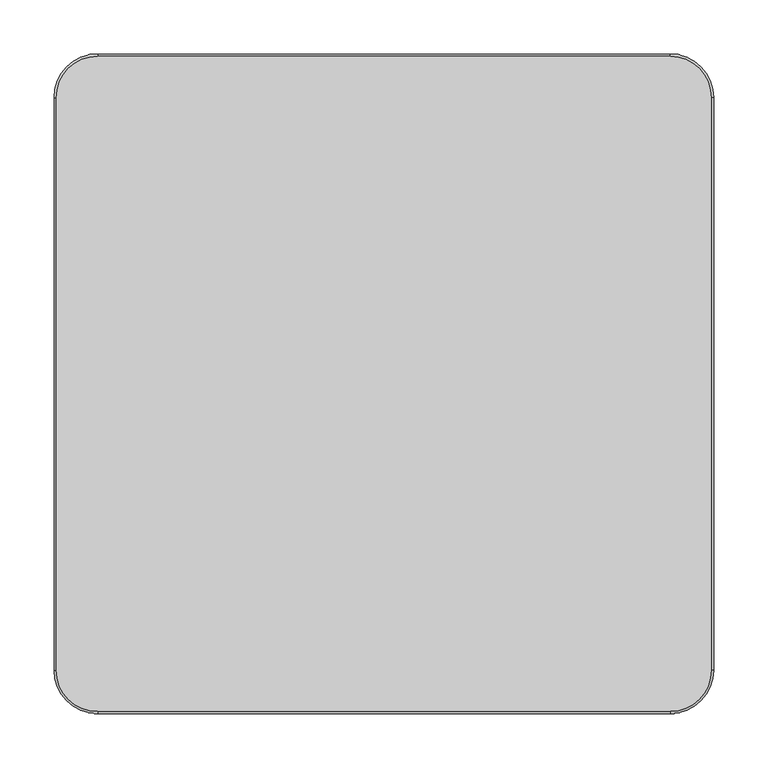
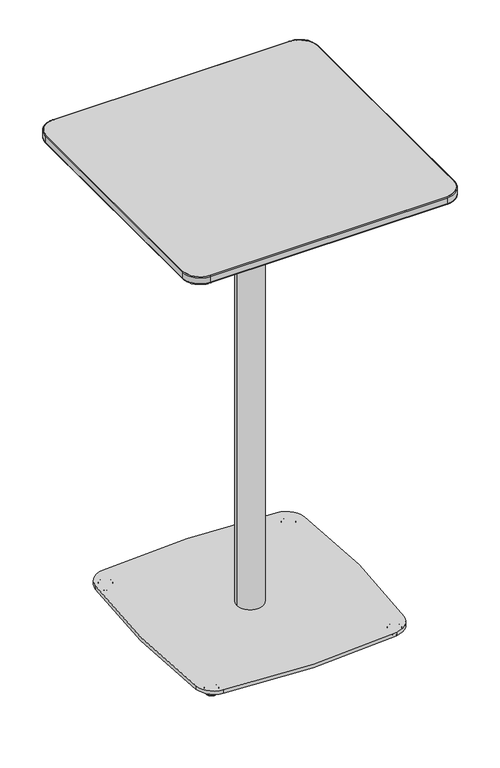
"""IFC4 building model written with IfcOpenShell, lengths in millimetres: furniture geometry, Coalesse_AM_Table_Occasional_Montara650Table_CafeHeight_Square : Bar Height - 24D x 24W."""

from ifc_helpers import new_model, si_unit, point, frame, frame_2d, origin, place, context, project, spatial, polyline, circle_curve, ellipse_curve, trimmed, segment, composite_curve, outline, extrude, source, transform, mapped, element, save
from ifc_brep_helpers import plane_surface, cylinder_surface, revolved_surface, spline_surface, advanced_brep


def furniture_204b8a26(model_context):
    return source(origin(), model_context, "Body", "SolidModel", [
        advanced_brep(
        [(-199.4595416, -196.2537842, 0.0), (-209.8436061, -214.2395115, 0.0), (-204.6515739, -205.2466479, 0.0), (-199.0731063, -195.5844585, 0.5718943), (-210.2300415, -214.9088372, 0.5718943), (-197.4473977, -192.7686487, 11.2068005), (-211.8557501, -217.7246471, 11.2068005), (-197.7408617, -193.2769433, 11.9999882), (-211.5622861, -217.2163525, 11.9999882), (-204.6515739, -205.2466479, 11.9999882)],
        [
            (0, 1, circle_curve(frame((-204.6515739, -205.2466479, 0.0), z_axis=(0.0, 0.0, -1.0), x_axis=(-0.5000000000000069, -0.8660254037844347, 0.0)), 10.3840645)),
            (1, 2),
            (2, 0),
            (1, 0, circle_curve(frame((-204.6515739, -205.2466479, 0.0), z_axis=(0.0, 0.0, -1.0), x_axis=(-0.5000000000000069, -0.8660254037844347, 0.0)), 10.3840645)),
            (3, 4, circle_curve(frame((-204.6515739, -205.2466479, 0.5718943), z_axis=(0.0, 0.0, -1.0), x_axis=(-0.5000000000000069, -0.8660254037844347, 0.0)), 11.1569353)),
            (4, 1, circle_curve(frame((-209.8436061, -214.2395115, 0.8081846), z_axis=(0.8660254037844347, -0.5000000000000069, 0.0), x_axis=(-0.5000000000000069, -0.8660254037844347, 0.0)), 0.8081846)),
            (0, 3, circle_curve(frame((-199.4595416, -196.2537842, 0.8081846), z_axis=(0.866025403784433, -0.5000000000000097, 0.0), x_axis=(0.5000000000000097, 0.866025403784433, 0.0)), 0.8081846)),
            (4, 3, circle_curve(frame((-204.6515739, -205.2466479, 0.5718943), z_axis=(0.0, 0.0, -1.0), x_axis=(-0.5000000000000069, -0.8660254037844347, 0.0)), 11.1569353)),
            (5, 6, circle_curve(frame((-204.6515739, -205.2466479, 11.2068005), z_axis=(0.0, 0.0, -1.0), x_axis=(-0.5000000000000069, -0.8660254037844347, 0.0)), 14.4083524)),
            (6, 4),
            (3, 5),
            (6, 5, circle_curve(frame((-204.6515739, -205.2466479, 11.2068005), z_axis=(0.0, 0.0, -1.0), x_axis=(-0.5000000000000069, -0.8660254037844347, 0.0)), 14.4083524)),
            (7, 8, circle_curve(frame((-204.6515739, -205.2466479, 11.9999882), z_axis=(0.0, 0.0, -1.0), x_axis=(-0.5000000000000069, -0.8660254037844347, 0.0)), 13.8214243)),
            (8, 6, circle_curve(frame((-211.5622861, -217.2163525, 11.3862424), z_axis=(0.8660254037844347, -0.5000000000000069, 0.0), x_axis=(-0.5000000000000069, -0.8660254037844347, 0.0)), 0.6137458)),
            (5, 7, circle_curve(frame((-197.7408617, -193.2769433, 11.3862424), z_axis=(0.866025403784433, -0.5000000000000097, 0.0), x_axis=(0.5000000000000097, 0.866025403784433, 0.0)), 0.6137458)),
            (8, 7, circle_curve(frame((-204.6515739, -205.2466479, 11.9999882), z_axis=(0.0, 0.0, -1.0), x_axis=(-0.5000000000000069, -0.8660254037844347, 0.0)), 13.8214243)),
            (9, 8),
            (7, 9),
        ],
        [
            plane_surface(frame((-204.6515739, -205.2466479, 0.0), z_axis=(0.0, 0.0, -1.0), x_axis=(-0.5000000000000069, -0.8660254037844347, 0.0))),
            revolved_surface(trimmed(ellipse_curve(frame((-209.8436061, -214.2395115, 0.8081846), z_axis=(-0.8660254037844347, 0.5000000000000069, 0.0), x_axis=(-0.5000000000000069, -0.8660254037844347, 0.0)), 0.8081846, 0.8081846), [point((-209.8436061, -214.2395115, 0.0))], [point((-210.2300415, -214.9088372, 0.5718943))], True, "CARTESIAN"), (-204.6515739, -205.2466479, 12.2086845), (0.0, 0.0, 1.0)),
            revolved_surface(polyline([(-210.2300415, -214.9088372, 0.5718943), (-211.8557501, -217.7246471, 11.2068005)]), (-204.6515739, -205.2466479, 12.2086845), (0.0, 0.0, 1.0)),
            revolved_surface(trimmed(ellipse_curve(frame((-211.5622861, -217.2163525, 11.3862424), z_axis=(-0.8660254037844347, 0.5000000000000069, 0.0), x_axis=(-0.5000000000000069, -0.8660254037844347, 0.0)), 0.6137458, 0.6137458), [point((-211.8557501, -217.7246471, 11.2068005))], [point((-211.5622861, -217.2163525, 11.9999882))], True, "CARTESIAN"), (-204.6515739, -205.2466479, 12.2086845), (0.0, 0.0, 1.0)),
            plane_surface(frame((-204.6515739, -205.2466479, 11.9999882), z_axis=(0.0, 0.0, 1.0), x_axis=(-0.5000000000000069, -0.8660254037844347, 0.0))),
        ],
        [
            (0, [[1, 2, 3]]),
            (0, [[4, -3, -2]]),
            (1, [[5, 6, -1, 7]]),
            (1, [[8, -7, -4, -6]]),
            (2, [[9, 10, -5, 11]]),
            (2, [[12, -11, -8, -10]]),
            (3, [[13, 14, -9, 15]]),
            (3, [[16, -15, -12, -14]]),
            (4, [[17, -13, 18]]),
            (4, [[-18, -16, -17]]),
        ],
    ),
        advanced_brep(
        [(204.6515739, -205.2466479, 0.0), (209.8436061, -214.2395115, 0.0), (199.4595416, -196.2537842, 0.0), (210.2300415, -214.9088372, 0.5718943), (199.0731063, -195.5844585, 0.5718943), (211.8557501, -217.7246471, 11.2068005), (197.4473977, -192.7686487, 11.2068005), (211.5622861, -217.2163525, 11.9999882), (197.7408617, -193.2769433, 11.9999882), (204.6515739, -205.2466479, 11.9999882)],
        [
            (0, 1),
            (1, 2, circle_curve(frame((204.6515739, -205.2466479, 0.0), z_axis=(0.0, 0.0, -1.0), x_axis=(0.5000000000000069, -0.8660254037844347, 0.0)), 10.3840645)),
            (2, 0),
            (2, 1, circle_curve(frame((204.6515739, -205.2466479, 0.0), z_axis=(0.0, 0.0, -1.0), x_axis=(0.5000000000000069, -0.8660254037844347, 0.0)), 10.3840645)),
            (1, 3, circle_curve(frame((209.8436061, -214.2395115, 0.8081846), z_axis=(-0.8660254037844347, -0.5000000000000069, 0.0), x_axis=(0.5000000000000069, -0.8660254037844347, 0.0)), 0.8081846)),
            (3, 4, circle_curve(frame((204.6515739, -205.2466479, 0.5718943), z_axis=(0.0, 0.0, -1.0), x_axis=(0.5000000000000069, -0.8660254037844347, 0.0)), 11.1569353)),
            (4, 2, circle_curve(frame((199.4595416, -196.2537842, 0.8081846), z_axis=(-0.866025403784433, -0.5000000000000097, 0.0), x_axis=(-0.5000000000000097, 0.866025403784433, 0.0)), 0.8081846)),
            (4, 3, circle_curve(frame((204.6515739, -205.2466479, 0.5718943), z_axis=(0.0, 0.0, -1.0), x_axis=(0.5000000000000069, -0.8660254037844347, 0.0)), 11.1569353)),
            (3, 5),
            (5, 6, circle_curve(frame((204.6515739, -205.2466479, 11.2068005), z_axis=(0.0, 0.0, -1.0), x_axis=(0.5000000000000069, -0.8660254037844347, 0.0)), 14.4083524)),
            (6, 4),
            (6, 5, circle_curve(frame((204.6515739, -205.2466479, 11.2068005), z_axis=(0.0, 0.0, -1.0), x_axis=(0.5000000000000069, -0.8660254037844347, 0.0)), 14.4083524)),
            (5, 7, circle_curve(frame((211.5622861, -217.2163525, 11.3862424), z_axis=(-0.8660254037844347, -0.5000000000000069, 0.0), x_axis=(0.5000000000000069, -0.8660254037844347, 0.0)), 0.6137458)),
            (7, 8, circle_curve(frame((204.6515739, -205.2466479, 11.9999882), z_axis=(0.0, 0.0, -1.0), x_axis=(0.5000000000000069, -0.8660254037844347, 0.0)), 13.8214243)),
            (8, 6, circle_curve(frame((197.7408617, -193.2769433, 11.3862424), z_axis=(-0.866025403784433, -0.5000000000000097, 0.0), x_axis=(-0.5000000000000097, 0.866025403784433, 0.0)), 0.6137458)),
            (8, 7, circle_curve(frame((204.6515739, -205.2466479, 11.9999882), z_axis=(0.0, 0.0, -1.0), x_axis=(0.5000000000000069, -0.8660254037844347, 0.0)), 13.8214243)),
            (7, 9),
            (9, 8),
        ],
        [
            plane_surface(frame((204.6515739, -205.2466479, 0.0), z_axis=(0.0, 0.0, -1.0), x_axis=(0.5000000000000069, -0.8660254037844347, 0.0))),
            revolved_surface(trimmed(ellipse_curve(frame((209.8436061, -214.2395115, 0.8081846), z_axis=(0.8660254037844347, 0.5000000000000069, 0.0), x_axis=(0.5000000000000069, -0.8660254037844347, 0.0)), 0.8081846, 0.8081846), [point((210.2300415, -214.9088372, 0.5718943))], [point((209.8436061, -214.2395115, 0.0))], True, "CARTESIAN"), (204.6515739, -205.2466479, 12.2086845), (0.0, 0.0, -1.0)),
            revolved_surface(polyline([(211.8557501, -217.7246471, 11.2068005), (210.2300415, -214.9088372, 0.5718943)]), (204.6515739, -205.2466479, 12.2086845), (0.0, 0.0, -1.0)),
            revolved_surface(trimmed(ellipse_curve(frame((211.5622861, -217.2163525, 11.3862424), z_axis=(0.8660254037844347, 0.5000000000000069, 0.0), x_axis=(0.5000000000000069, -0.8660254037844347, 0.0)), 0.6137458, 0.6137458), [point((211.5622861, -217.2163525, 11.9999882))], [point((211.8557501, -217.7246471, 11.2068005))], True, "CARTESIAN"), (204.6515739, -205.2466479, 12.2086845), (0.0, 0.0, -1.0)),
            plane_surface(frame((204.6515739, -205.2466479, 11.9999882), z_axis=(0.0, 0.0, 1.0), x_axis=(0.5000000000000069, -0.8660254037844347, 0.0))),
        ],
        [
            (0, [[1, 2, 3]]),
            (0, [[-3, 4, -1]]),
            (1, [[-2, 5, 6, 7]]),
            (1, [[-4, -7, 8, -5]]),
            (2, [[-6, 9, 10, 11]]),
            (2, [[-8, -11, 12, -9]]),
            (3, [[-10, 13, 14, 15]]),
            (3, [[-12, -15, 16, -13]]),
            (4, [[-14, 17, 18]]),
            (4, [[-16, -18, -17]]),
        ],
    ),
        advanced_brep(
        [(199.4595416, 196.2537842, 0.0), (209.8436061, 214.2395115, 0.0), (204.6515739, 205.2466479, 0.0), (199.0731063, 195.5844585, 0.5718943), (210.2300415, 214.9088372, 0.5718943), (197.4473977, 192.7686487, 11.2068005), (211.8557501, 217.7246471, 11.2068005), (197.7408617, 193.2769433, 11.9999882), (211.5622861, 217.2163525, 11.9999882), (204.6515739, 205.2466479, 11.9999882)],
        [
            (0, 1, circle_curve(frame((204.6515739, 205.2466479, 0.0), z_axis=(0.0, 0.0, -1.0), x_axis=(0.5000000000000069, 0.8660254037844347, 0.0)), 10.3840645)),
            (1, 2),
            (2, 0),
            (1, 0, circle_curve(frame((204.6515739, 205.2466479, 0.0), z_axis=(0.0, 0.0, -1.0), x_axis=(0.5000000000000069, 0.8660254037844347, 0.0)), 10.3840645)),
            (3, 4, circle_curve(frame((204.6515739, 205.2466479, 0.5718943), z_axis=(0.0, 0.0, -1.0), x_axis=(0.5000000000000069, 0.8660254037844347, 0.0)), 11.1569353)),
            (4, 1, circle_curve(frame((209.8436061, 214.2395115, 0.8081846), z_axis=(-0.8660254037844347, 0.5000000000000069, 0.0), x_axis=(0.5000000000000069, 0.8660254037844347, 0.0)), 0.8081846)),
            (0, 3, circle_curve(frame((199.4595416, 196.2537842, 0.8081846), z_axis=(-0.866025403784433, 0.5000000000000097, 0.0), x_axis=(-0.5000000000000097, -0.866025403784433, 0.0)), 0.8081846)),
            (4, 3, circle_curve(frame((204.6515739, 205.2466479, 0.5718943), z_axis=(0.0, 0.0, -1.0), x_axis=(0.5000000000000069, 0.8660254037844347, 0.0)), 11.1569353)),
            (5, 6, circle_curve(frame((204.6515739, 205.2466479, 11.2068005), z_axis=(0.0, 0.0, -1.0), x_axis=(0.5000000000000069, 0.8660254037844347, 0.0)), 14.4083524)),
            (6, 4),
            (3, 5),
            (6, 5, circle_curve(frame((204.6515739, 205.2466479, 11.2068005), z_axis=(0.0, 0.0, -1.0), x_axis=(0.5000000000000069, 0.8660254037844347, 0.0)), 14.4083524)),
            (7, 8, circle_curve(frame((204.6515739, 205.2466479, 11.9999882), z_axis=(0.0, 0.0, -1.0), x_axis=(0.5000000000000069, 0.8660254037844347, 0.0)), 13.8214243)),
            (8, 6, circle_curve(frame((211.5622861, 217.2163525, 11.3862424), z_axis=(-0.8660254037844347, 0.5000000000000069, 0.0), x_axis=(0.5000000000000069, 0.8660254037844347, 0.0)), 0.6137458)),
            (5, 7, circle_curve(frame((197.7408617, 193.2769433, 11.3862424), z_axis=(-0.866025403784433, 0.5000000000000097, 0.0), x_axis=(-0.5000000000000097, -0.866025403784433, 0.0)), 0.6137458)),
            (8, 7, circle_curve(frame((204.6515739, 205.2466479, 11.9999882), z_axis=(0.0, 0.0, -1.0), x_axis=(0.5000000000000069, 0.8660254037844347, 0.0)), 13.8214243)),
            (9, 8),
            (7, 9),
        ],
        [
            plane_surface(frame((204.6515739, 205.2466479, 0.0), z_axis=(0.0, 0.0, -1.0), x_axis=(0.5000000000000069, 0.8660254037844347, 0.0))),
            revolved_surface(trimmed(ellipse_curve(frame((209.8436061, 214.2395115, 0.8081846), z_axis=(0.8660254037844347, -0.5000000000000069, 0.0), x_axis=(0.5000000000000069, 0.8660254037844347, 0.0)), 0.8081846, 0.8081846), [point((209.8436061, 214.2395115, 0.0))], [point((210.2300415, 214.9088372, 0.5718943))], True, "CARTESIAN"), (204.6515739, 205.2466479, 12.2086845), (0.0, 0.0, 1.0)),
            revolved_surface(polyline([(210.2300415, 214.9088372, 0.5718943), (211.8557501, 217.7246471, 11.2068005)]), (204.6515739, 205.2466479, 12.2086845), (0.0, 0.0, 1.0)),
            revolved_surface(trimmed(ellipse_curve(frame((211.5622861, 217.2163525, 11.3862424), z_axis=(0.8660254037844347, -0.5000000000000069, 0.0), x_axis=(0.5000000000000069, 0.8660254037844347, 0.0)), 0.6137458, 0.6137458), [point((211.8557501, 217.7246471, 11.2068005))], [point((211.5622861, 217.2163525, 11.9999882))], True, "CARTESIAN"), (204.6515739, 205.2466479, 12.2086845), (0.0, 0.0, 1.0)),
            plane_surface(frame((204.6515739, 205.2466479, 11.9999882), z_axis=(0.0, 0.0, 1.0), x_axis=(0.5000000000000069, 0.8660254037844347, 0.0))),
        ],
        [
            (0, [[1, 2, 3]]),
            (0, [[4, -3, -2]]),
            (1, [[5, 6, -1, 7]]),
            (1, [[8, -7, -4, -6]]),
            (2, [[9, 10, -5, 11]]),
            (2, [[12, -11, -8, -10]]),
            (3, [[13, 14, -9, 15]]),
            (3, [[16, -15, -12, -14]]),
            (4, [[17, -13, 18]]),
            (4, [[-18, -16, -17]]),
        ],
    ),
        extrude(outline(composite_curve([segment(trimmed(circle_curve(frame_2d((189.3188482, 188.9781952)), 44.45), [point((194.4241587, 233.1340363))], [point((233.4709717, 194.115557))], False, "CARTESIAN"), True, "CONTINUOUS"), segment(trimmed(circle_curve(frame_2d((-1397.5488879, 4.3367087)), 1642.0236885), [point((233.4709717, 194.115557))], [point((232.4883748, -193.704489))], False, "CARTESIAN"), True, "CONTINUOUS"), segment(trimmed(circle_curve(frame_2d((188.3628504, -188.3434633)), 44.45), [point((232.4883748, -193.704489))], [point((193.9003311, -232.4471911))], False, "CARTESIAN"), True, "CONTINUOUS"), segment(trimmed(circle_curve(frame_2d((-4.3367152, 1346.4283112)), 1591.2717488), [point((193.9003311, -232.4471911))], [point((-194.577927, -233.4305622))], False, "CARTESIAN"), True, "CONTINUOUS"), segment(trimmed(circle_curve(frame_2d((-189.263799, -189.2993652)), 44.45), [point((-194.577927, -233.4305622))], [point((-233.438325, -194.2403925))], False, "CARTESIAN"), True, "CONTINUOUS"), segment(trimmed(circle_curve(frame_2d((1503.1397991, 5.89e-05)), 1747.4074894), [point((-233.438325, -194.2403925))], [point((-233.4410299, 194.2163254))], False, "CARTESIAN"), True, "CONTINUOUS"), segment(trimmed(circle_curve(frame_2d((-189.2664351, 189.2759133)), 44.45), [point((-233.4410299, 194.2163254))], [point((-194.3022914, 233.4397294))], False, "CARTESIAN"), True, "CONTINUOUS"), segment(trimmed(circle_curve(frame_2d((-1.2702107, -1459.4269529)), 1703.8365498), [point((-194.3022914, 233.4397294))], [point((194.4241587, 233.1340363))], False, "CARTESIAN"), True, "CONTINUOUS")], self_intersect=False)), frame((0.0, 0.0, 11.999986), z_axis=(0.0, 0.0, 1.0), x_axis=(1.0, 0.0, 0.0)), (0.0, 0.0, 1.0), 8.0000105),
        advanced_brep(
        [(-204.6515739, 205.2466479, 0.0), (-209.8436061, 214.2395115, 0.0), (-199.4595416, 196.2537842, 0.0), (-210.2300415, 214.9088372, 0.5718943), (-199.0731063, 195.5844585, 0.5718943), (-211.8557501, 217.7246471, 11.2068005), (-197.4473977, 192.7686487, 11.2068005), (-211.5622861, 217.2163525, 11.9999882), (-197.7408617, 193.2769433, 11.9999882), (-204.6515739, 205.2466479, 11.9999882)],
        [
            (0, 1),
            (1, 2, circle_curve(frame((-204.6515739, 205.2466479, 0.0), z_axis=(0.0, 0.0, -1.0), x_axis=(-0.5000000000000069, 0.8660254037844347, 0.0)), 10.3840645)),
            (2, 0),
            (2, 1, circle_curve(frame((-204.6515739, 205.2466479, 0.0), z_axis=(0.0, 0.0, -1.0), x_axis=(-0.5000000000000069, 0.8660254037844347, 0.0)), 10.3840645)),
            (1, 3, circle_curve(frame((-209.8436061, 214.2395115, 0.8081846), z_axis=(0.8660254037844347, 0.5000000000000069, 0.0), x_axis=(-0.5000000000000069, 0.8660254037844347, 0.0)), 0.8081846)),
            (3, 4, circle_curve(frame((-204.6515739, 205.2466479, 0.5718943), z_axis=(0.0, 0.0, -1.0), x_axis=(-0.5000000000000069, 0.8660254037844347, 0.0)), 11.1569353)),
            (4, 2, circle_curve(frame((-199.4595416, 196.2537842, 0.8081846), z_axis=(0.866025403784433, 0.5000000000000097, 0.0), x_axis=(0.5000000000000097, -0.866025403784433, 0.0)), 0.8081846)),
            (4, 3, circle_curve(frame((-204.6515739, 205.2466479, 0.5718943), z_axis=(0.0, 0.0, -1.0), x_axis=(-0.5000000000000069, 0.8660254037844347, 0.0)), 11.1569353)),
            (3, 5),
            (5, 6, circle_curve(frame((-204.6515739, 205.2466479, 11.2068005), z_axis=(0.0, 0.0, -1.0), x_axis=(-0.5000000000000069, 0.8660254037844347, 0.0)), 14.4083524)),
            (6, 4),
            (6, 5, circle_curve(frame((-204.6515739, 205.2466479, 11.2068005), z_axis=(0.0, 0.0, -1.0), x_axis=(-0.5000000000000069, 0.8660254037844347, 0.0)), 14.4083524)),
            (5, 7, circle_curve(frame((-211.5622861, 217.2163525, 11.3862424), z_axis=(0.8660254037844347, 0.5000000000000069, 0.0), x_axis=(-0.5000000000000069, 0.8660254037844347, 0.0)), 0.6137458)),
            (7, 8, circle_curve(frame((-204.6515739, 205.2466479, 11.9999882), z_axis=(0.0, 0.0, -1.0), x_axis=(-0.5000000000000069, 0.8660254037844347, 0.0)), 13.8214243)),
            (8, 6, circle_curve(frame((-197.7408617, 193.2769433, 11.3862424), z_axis=(0.866025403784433, 0.5000000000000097, 0.0), x_axis=(0.5000000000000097, -0.866025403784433, 0.0)), 0.6137458)),
            (8, 7, circle_curve(frame((-204.6515739, 205.2466479, 11.9999882), z_axis=(0.0, 0.0, -1.0), x_axis=(-0.5000000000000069, 0.8660254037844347, 0.0)), 13.8214243)),
            (7, 9),
            (9, 8),
        ],
        [
            plane_surface(frame((-204.6515739, 205.2466479, 0.0), z_axis=(0.0, 0.0, -1.0), x_axis=(-0.5000000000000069, 0.8660254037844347, 0.0))),
            revolved_surface(trimmed(ellipse_curve(frame((-209.8436061, 214.2395115, 0.8081846), z_axis=(-0.8660254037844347, -0.5000000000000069, 0.0), x_axis=(-0.5000000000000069, 0.8660254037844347, 0.0)), 0.8081846, 0.8081846), [point((-210.2300415, 214.9088372, 0.5718943))], [point((-209.8436061, 214.2395115, 0.0))], True, "CARTESIAN"), (-204.6515739, 205.2466479, 12.2086845), (0.0, 0.0, -1.0)),
            revolved_surface(polyline([(-211.8557501, 217.7246471, 11.2068005), (-210.2300415, 214.9088372, 0.5718943)]), (-204.6515739, 205.2466479, 12.2086845), (0.0, 0.0, -1.0)),
            revolved_surface(trimmed(ellipse_curve(frame((-211.5622861, 217.2163525, 11.3862424), z_axis=(-0.8660254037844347, -0.5000000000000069, 0.0), x_axis=(-0.5000000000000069, 0.8660254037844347, 0.0)), 0.6137458, 0.6137458), [point((-211.5622861, 217.2163525, 11.9999882))], [point((-211.8557501, 217.7246471, 11.2068005))], True, "CARTESIAN"), (-204.6515739, 205.2466479, 12.2086845), (0.0, 0.0, -1.0)),
            plane_surface(frame((-204.6515739, 205.2466479, 11.9999882), z_axis=(0.0, 0.0, 1.0), x_axis=(-0.5000000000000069, 0.8660254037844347, 0.0))),
        ],
        [
            (0, [[1, 2, 3]]),
            (0, [[-3, 4, -1]]),
            (1, [[-2, 5, 6, 7]]),
            (1, [[-4, -7, 8, -5]]),
            (2, [[-6, 9, 10, 11]]),
            (2, [[-8, -11, 12, -9]]),
            (3, [[-10, 13, 14, 15]]),
            (3, [[-12, -15, 16, -13]]),
            (4, [[-14, 17, 18]]),
            (4, [[-16, -18, -17]]),
        ],
    ),
        advanced_brep(
        [(239.8626362, 239.8635082, 1036.830027), (239.8626362, -239.8635082, 1036.830027), (-239.8626362, -239.8635082, 1036.830027), (-239.8626362, 239.8635082, 1036.830027), (264.588625, 302.768, 1049.095891), (-264.588625, 302.768, 1049.095891), (-302.688625, 264.668, 1049.095891), (-302.688625, -264.668, 1049.095891), (-264.588625, -302.768, 1049.095891), (264.588625, -302.768, 1049.095891), (302.688625, -264.668, 1049.095891), (302.688625, 264.668, 1049.095891)],
        [
            (0, 1),
            (1, 2),
            (2, 3),
            (3, 0),
            (4, 5),
            (5, 6, circle_curve(frame((-264.588625, 264.668, 1049.095891), z_axis=(0.0, 0.0, 1.0), x_axis=(1.0, 0.0, 0.0)), 38.1)),
            (6, 7),
            (7, 8, circle_curve(frame((-264.588625, -264.668, 1049.095891), z_axis=(0.0, 0.0, 1.0), x_axis=(1.0, 0.0, 0.0)), 38.1)),
            (8, 9),
            (9, 10, circle_curve(frame((264.588625, -264.668, 1049.095891), z_axis=(0.0, 0.0, 1.0), x_axis=(1.0, 0.0, 0.0)), 38.1)),
            (10, 11),
            (11, 4, circle_curve(frame((264.588625, 264.668, 1049.095891), z_axis=(0.0, 0.0, 1.0), x_axis=(1.0, 0.0, 0.0)), 38.1)),
            (11, 0),
            (0, 4),
            (10, 1),
            (9, 1),
            (8, 2),
            (7, 2),
            (6, 3),
            (5, 3),
        ],
        [
            plane_surface(frame((0.0, 0.0, 1036.830027), z_axis=(0.0, 0.0, -1.0), x_axis=(-1.0, 0.0, 0.0))),
            plane_surface(frame((0.0, 0.0, 1049.095891), z_axis=(0.0, 0.0, 1.0), x_axis=(-1.0, 0.0, 0.0))),
            spline_surface(2, 1, [[(264.588625, 302.768, 1049.095891), (239.8626362, 239.8635082, 1036.830027)], [(302.68862499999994, 302.7679999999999, 1049.095891), (239.8626362, 239.8635082, 1036.830027)], [(302.688625, 264.668, 1049.095891), (239.8626362, 239.8635082, 1036.830027)]], [3, 3], [2, 2], [0.0, 1.0], [0.0, 1.0], weights=[[1.0, 1.0], [0.7071067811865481, 0.7071067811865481], [1.0, 1.0]]),
            plane_surface(frame((302.688625, 0.0, 1049.095891), z_axis=(0.19161772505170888, 0.0, -0.9814696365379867), x_axis=(0.0, -1.0, 0.0))),
            spline_surface(2, 1, [[(302.688625, -264.668, 1049.095891), (239.8626362, -239.8635082, 1036.830027)], [(302.68862500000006, -302.76800000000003, 1049.095891), (239.8626362, -239.8635082, 1036.830027)], [(264.588625, -302.768, 1049.095891), (239.8626362, -239.8635082, 1036.830027)]], [3, 3], [2, 2], [0.0, 1.0], [0.0, 1.0], weights=[[1.0, 1.0], [0.707106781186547, 0.707106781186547], [1.0, 1.0]]),
            plane_surface(frame((0.0, -302.768, 1049.095891), z_axis=(0.0, -0.19138735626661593, -0.9815145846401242), x_axis=(-1.0, 0.0, 0.0))),
            spline_surface(2, 1, [[(-264.588625, -302.768, 1049.095891), (-239.8626362, -239.8635082, 1036.830027)], [(-302.68862499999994, -302.7679999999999, 1049.095891), (-239.8626362, -239.8635082, 1036.830027)], [(-302.688625, -264.668, 1049.095891), (-239.8626362, -239.8635082, 1036.830027)]], [3, 3], [2, 2], [0.0, 1.0], [0.0, 1.0], weights=[[1.0, 1.0], [0.7071067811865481, 0.7071067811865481], [1.0, 1.0]]),
            plane_surface(frame((-302.688625, 0.0, 1049.095891), z_axis=(-0.19161772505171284, 0.0, -0.9814696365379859), x_axis=(0.0, 1.0, 0.0))),
            spline_surface(2, 1, [[(-302.688625, 264.668, 1049.095891), (-239.8626362, 239.8635082, 1036.830027)], [(-302.68862500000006, 302.76800000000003, 1049.095891), (-239.8626362, 239.8635082, 1036.830027)], [(-264.588625, 302.768, 1049.095891), (-239.8626362, 239.8635082, 1036.830027)]], [3, 3], [2, 2], [0.0, 1.0], [0.0, 1.0], weights=[[1.0, 1.0], [0.707106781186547, 0.707106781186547], [1.0, 1.0]]),
            plane_surface(frame((0.0, 302.768, 1049.095891), z_axis=(0.0, 0.19138735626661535, -0.9815145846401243), x_axis=(1.0, 0.0, 0.0))),
        ],
        [
            (0, [[1, 2, 3, 4]]),
            (1, [[5, 6, 7, 8, 9, 10, 11, 12]]),
            (2, [[-12, 13, 14]]),
            (3, [[-11, 15, -1, -13]]),
            (4, [[-10, 16, -15]]),
            (5, [[-9, 17, -2, -16]]),
            (6, [[-8, 18, -17]]),
            (7, [[-7, 19, -3, -18]]),
            (8, [[-6, 20, -19]]),
            (9, [[-5, -14, -4, -20]]),
        ],
    ),
        extrude(outline(composite_curve([segment(trimmed(circle_curve(frame_2d((264.588625, 264.668)), 38.1), [point((264.588625, 302.768))], [point((302.688625, 264.668))], False, "CARTESIAN"), True, "CONTINUOUS"), segment(polyline([(302.688625, 264.668), (302.688625, -264.668)]), True, "CONTINUOUS"), segment(trimmed(circle_curve(frame_2d((264.588625, -264.668)), 38.1), [point((302.688625, -264.668))], [point((264.588625, -302.768))], False, "CARTESIAN"), True, "CONTINUOUS"), segment(polyline([(264.588625, -302.768), (-264.588625, -302.768)]), True, "CONTINUOUS"), segment(trimmed(circle_curve(frame_2d((-264.588625, -264.668)), 38.1), [point((-264.588625, -302.768))], [point((-302.688625, -264.668))], False, "CARTESIAN"), True, "CONTINUOUS"), segment(polyline([(-302.688625, -264.668), (-302.688625, 264.668)]), True, "CONTINUOUS"), segment(trimmed(circle_curve(frame_2d((-264.588625, 264.668)), 38.1), [point((-302.688625, 264.668))], [point((-264.588625, 302.768))], False, "CARTESIAN"), True, "CONTINUOUS"), segment(polyline([(-264.588625, 302.768), (264.588625, 302.768)]), True, "CONTINUOUS")], self_intersect=False)), frame((0.0, 0.0, 1049.095891), z_axis=(0.0, 0.0, 1.0), x_axis=(1.0, 0.0, 0.0)), (0.0, 0.0, 1.0), 17.704109),
        advanced_brep(
        [(-304.7644915, 264.668, 1051.0278467), (-264.588625, 304.8438665, 1051.0278467), (-264.588625, 302.768, 1049.095891), (-302.688625, 264.668, 1049.095891), (-304.7644915, 264.668, 1064.7999283), (-264.588625, 304.8438665, 1064.7999283), (-302.688625, 264.668, 1066.8), (-264.588625, 302.768, 1066.8), (-302.688625, -264.668, 1049.095891), (-304.7644915, -264.668, 1051.0278467), (-304.7644915, -264.668, 1064.7999283), (-302.688625, -264.668, 1066.8), (-264.588625, -304.8438665, 1051.0278467), (-264.588625, -302.768, 1049.095891), (-264.588625, -304.8438665, 1064.7999283), (-264.588625, -302.768, 1066.8), (264.588625, -302.768, 1049.095891), (264.588625, -304.8438665, 1051.0278467), (264.588625, -304.8438665, 1064.7999283), (264.588625, -302.768, 1066.8), (304.7644915, -264.668, 1051.0278467), (302.688625, -264.668, 1049.095891), (304.7644915, -264.668, 1064.7999283), (302.688625, -264.668, 1066.8), (302.688625, 264.668, 1049.095891), (304.7644915, 264.668, 1051.0278467), (304.7644915, 264.668, 1064.7999283), (302.688625, 264.668, 1066.8), (264.588625, 304.8438665, 1051.0278467), (264.588625, 302.768, 1049.095891), (264.588625, 304.8438665, 1064.7999283), (264.588625, 302.768, 1066.8)],
        [
            (0, 1, circle_curve(frame((-264.588625, 264.668, 1051.0278467), z_axis=(0.0, 0.0, -1.0), x_axis=(0.0, 1.0, 0.0)), 40.1758665)),
            (1, 2, circle_curve(frame((-264.588625, 302.9069224, 1051.0278467), z_axis=(-1.0, 0.0, 0.0), x_axis=(0.0, -1.0, 0.0)), 1.9369441)),
            (2, 3, circle_curve(frame((-264.588625, 264.668, 1049.095891), z_axis=(0.0, 0.0, 1.0), x_axis=(0.0, 1.0, 0.0)), 38.1)),
            (3, 0, circle_curve(frame((-302.8275474, 264.668, 1051.0278467), z_axis=(0.0, 1.0, 0.0), x_axis=(1.0, 0.0, 0.0)), 1.9369441)),
            (4, 5, circle_curve(frame((-264.588625, 264.668, 1064.7999283), z_axis=(0.0, 0.0, -1.0), x_axis=(0.0, 1.0, 0.0)), 40.1758665)),
            (5, 1),
            (0, 4),
            (6, 7, circle_curve(frame((-264.588625, 264.668, 1066.8), z_axis=(0.0, 0.0, -1.0), x_axis=(0.0, 1.0, 0.0)), 38.1)),
            (7, 5, circle_curve(frame((-264.588625, 302.8424111, 1064.7999283), z_axis=(-1.0, 0.0, 0.0), x_axis=(0.0, -1.0, 0.0)), 2.0014554)),
            (4, 6, circle_curve(frame((-302.7630361, 264.668, 1064.7999283), z_axis=(0.0, 1.0, 0.0), x_axis=(1.0, 0.0, 0.0)), 2.0014554)),
            (2, 7),
            (6, 3),
            (3, 8),
            (8, 9, circle_curve(frame((-302.8275474, -264.668, 1051.0278467), z_axis=(0.0, 1.0, 0.0), x_axis=(1.0, 0.0, 0.0)), 1.9369441)),
            (9, 0),
            (9, 10),
            (10, 4),
            (10, 11, circle_curve(frame((-302.7630361, -264.668, 1064.7999283), z_axis=(0.0, 1.0, 0.0), x_axis=(1.0, 0.0, 0.0)), 2.0014554)),
            (11, 6),
            (11, 8),
            (12, 9, circle_curve(frame((-264.588625, -264.668, 1051.0278467), z_axis=(0.0, 0.0, -1.0), x_axis=(-1.0, 0.0, 0.0)), 40.1758665)),
            (8, 13, circle_curve(frame((-264.588625, -264.668, 1049.095891), z_axis=(0.0, 0.0, 1.0), x_axis=(-1.0, 0.0, 0.0)), 38.1)),
            (13, 12, circle_curve(frame((-264.588625, -302.9069224, 1051.0278467), z_axis=(-1.0, 0.0, 0.0), x_axis=(0.0, 1.0, 0.0)), 1.9369441)),
            (14, 10, circle_curve(frame((-264.588625, -264.668, 1064.7999283), z_axis=(0.0, 0.0, -1.0), x_axis=(-1.0, 0.0, 0.0)), 40.1758665)),
            (12, 14),
            (15, 11, circle_curve(frame((-264.588625, -264.668, 1066.8), z_axis=(0.0, 0.0, -1.0), x_axis=(-1.0, 0.0, 0.0)), 38.1)),
            (14, 15, circle_curve(frame((-264.588625, -302.8424111, 1064.7999283), z_axis=(-1.0, 0.0, 0.0), x_axis=(0.0, 1.0, 0.0)), 2.0014554)),
            (15, 13),
            (13, 16),
            (16, 17, circle_curve(frame((264.588625, -302.9069224, 1051.0278467), z_axis=(-1.0, 0.0, 0.0), x_axis=(0.0, 1.0, 0.0)), 1.9369441)),
            (17, 12),
            (17, 18),
            (18, 14),
            (18, 19, circle_curve(frame((264.588625, -302.8424111, 1064.7999283), z_axis=(-1.0, 0.0, 0.0), x_axis=(0.0, 1.0, 0.0)), 2.0014554)),
            (19, 15),
            (19, 16),
            (20, 17, circle_curve(frame((264.588625, -264.668, 1051.0278467), z_axis=(0.0, 0.0, -1.0), x_axis=(0.0, -1.0, 0.0)), 40.1758665)),
            (16, 21, circle_curve(frame((264.588625, -264.668, 1049.095891), z_axis=(0.0, 0.0, 1.0), x_axis=(0.0, -1.0, 0.0)), 38.1)),
            (21, 20, circle_curve(frame((302.8275474, -264.668, 1051.0278467), z_axis=(0.0, -1.0, 0.0), x_axis=(-1.0, 0.0, 0.0)), 1.9369441)),
            (22, 18, circle_curve(frame((264.588625, -264.668, 1064.7999283), z_axis=(0.0, 0.0, -1.0), x_axis=(0.0, -1.0, 0.0)), 40.1758665)),
            (20, 22),
            (23, 19, circle_curve(frame((264.588625, -264.668, 1066.8), z_axis=(0.0, 0.0, -1.0), x_axis=(0.0, -1.0, 0.0)), 38.1)),
            (22, 23, circle_curve(frame((302.7630361, -264.668, 1064.7999283), z_axis=(0.0, -1.0, 0.0), x_axis=(-1.0, 0.0, 0.0)), 2.0014554)),
            (23, 21),
            (21, 24),
            (24, 25, circle_curve(frame((302.8275474, 264.668, 1051.0278467), z_axis=(0.0, -1.0, 0.0), x_axis=(-1.0, 0.0, 0.0)), 1.9369441)),
            (25, 20),
            (25, 26),
            (26, 22),
            (26, 27, circle_curve(frame((302.7630361, 264.668, 1064.7999283), z_axis=(0.0, -1.0, 0.0), x_axis=(-1.0, 0.0, 0.0)), 2.0014554)),
            (27, 23),
            (27, 24),
            (28, 25, circle_curve(frame((264.588625, 264.668, 1051.0278467), z_axis=(0.0, 0.0, -1.0), x_axis=(1.0, 0.0, 0.0)), 40.1758665)),
            (24, 29, circle_curve(frame((264.588625, 264.668, 1049.095891), z_axis=(0.0, 0.0, 1.0), x_axis=(1.0, 0.0, 0.0)), 38.1)),
            (29, 28, circle_curve(frame((264.588625, 302.9069224, 1051.0278467), z_axis=(1.0, 0.0, 0.0), x_axis=(0.0, -1.0, 0.0)), 1.9369441)),
            (30, 26, circle_curve(frame((264.588625, 264.668, 1064.7999283), z_axis=(0.0, 0.0, -1.0), x_axis=(1.0, 0.0, 0.0)), 40.1758665)),
            (28, 30),
            (31, 27, circle_curve(frame((264.588625, 264.668, 1066.8), z_axis=(0.0, 0.0, -1.0), x_axis=(1.0, 0.0, 0.0)), 38.1)),
            (30, 31, circle_curve(frame((264.588625, 302.8424111, 1064.7999283), z_axis=(1.0, 0.0, 0.0), x_axis=(0.0, -1.0, 0.0)), 2.0014554)),
            (31, 29),
            (29, 2),
            (1, 28),
            (5, 30),
            (7, 31),
        ],
        [
            revolved_surface(trimmed(ellipse_curve(frame((-264.588625, 302.9069224, 1051.0278467), z_axis=(1.0, 0.0, 0.0), x_axis=(0.0, -1.0, 0.0)), 1.9369441, 1.9369441), [point((-264.588625, 302.768, 1049.095891))], [point((-264.588625, 304.8438665, 1051.0278467))], True, "CARTESIAN"), (-264.588625, 264.668, 0.0), (0.0, 0.0, 1.0)),
            cylinder_surface(frame((-264.588625, 264.668, 0.0), z_axis=(0.0, 0.0, 1.0), x_axis=(0.0, 1.0, 0.0)), 40.1758665),
            revolved_surface(trimmed(ellipse_curve(frame((-264.588625, 302.8424111, 1064.7999283), z_axis=(1.0, 0.0, 0.0), x_axis=(0.0, -1.0, 0.0)), 2.0014554, 2.0014554), [point((-264.588625, 304.8438665, 1064.7999283))], [point((-264.588625, 302.768, 1066.8))], True, "CARTESIAN"), (-264.588625, 264.668, 0.0), (0.0, 0.0, 1.0)),
            revolved_surface(polyline([(-264.588625, 302.76800000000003, 1066.8), (-264.588625, 302.76800000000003, 1049.095891)]), (-264.588625, 264.668, 0.0), (0.0, 0.0, 1.0)),
            cylinder_surface(frame((-302.8275474, 264.668, 1051.0278467), z_axis=(0.0, 1.0, 0.0), x_axis=(1.0, 0.0, 0.0)), 1.9369441),
            plane_surface(frame((-304.7644915, 264.668, 1051.0278467), z_axis=(-1.0, 0.0, 0.0), x_axis=(0.0, -1.0, 0.0))),
            cylinder_surface(frame((-302.7630361, 264.668, 1064.7999283), z_axis=(0.0, 1.0, 0.0), x_axis=(1.0, 0.0, 0.0)), 2.0014554),
            plane_surface(frame((-302.688625, 264.668, 1066.8), z_axis=(1.0, 0.0, 0.0), x_axis=(0.0, -1.0, 0.0))),
            revolved_surface(trimmed(ellipse_curve(frame((-302.8275474, -264.668, 1051.0278467), z_axis=(0.0, 1.0, 0.0), x_axis=(1.0, 0.0, 0.0)), 1.9369441, 1.9369441), [point((-302.688625, -264.668, 1049.095891))], [point((-304.7644915, -264.668, 1051.0278467))], True, "CARTESIAN"), (-264.588625, -264.668, 0.0), (0.0, 0.0, 1.0)),
            cylinder_surface(frame((-264.588625, -264.668, 0.0), z_axis=(0.0, 0.0, 1.0), x_axis=(-1.0, 0.0, 0.0)), 40.1758665),
            revolved_surface(trimmed(ellipse_curve(frame((-302.7630361, -264.668, 1064.7999283), z_axis=(0.0, 1.0, 0.0), x_axis=(1.0, 0.0, 0.0)), 2.0014554, 2.0014554), [point((-304.7644915, -264.668, 1064.7999283))], [point((-302.688625, -264.668, 1066.8))], True, "CARTESIAN"), (-264.588625, -264.668, 0.0), (0.0, 0.0, 1.0)),
            revolved_surface(polyline([(-302.688625, -264.668, 1066.8), (-302.688625, -264.668, 1049.095891)]), (-264.588625, -264.668, 0.0), (0.0, 0.0, 1.0)),
            cylinder_surface(frame((-264.588625, -302.9069224, 1051.0278467), z_axis=(-1.0, 0.0, 0.0), x_axis=(0.0, 1.0, 0.0)), 1.9369441),
            plane_surface(frame((-264.588625, -304.8438665, 1051.0278467), z_axis=(0.0, -1.0, 0.0), x_axis=(1.0, 0.0, 0.0))),
            cylinder_surface(frame((-264.588625, -302.8424111, 1064.7999283), z_axis=(-1.0, 0.0, 0.0), x_axis=(0.0, 1.0, 0.0)), 2.0014554),
            plane_surface(frame((-264.588625, -302.768, 1066.8), z_axis=(0.0, 1.0, 0.0), x_axis=(1.0, 0.0, 0.0))),
            revolved_surface(trimmed(ellipse_curve(frame((264.588625, -302.9069224, 1051.0278467), z_axis=(-1.0, 0.0, 0.0), x_axis=(0.0, 1.0, 0.0)), 1.9369441, 1.9369441), [point((264.588625, -302.768, 1049.095891))], [point((264.588625, -304.8438665, 1051.0278467))], True, "CARTESIAN"), (264.588625, -264.668, 0.0), (0.0, 0.0, 1.0)),
            cylinder_surface(frame((264.588625, -264.668, 0.0), z_axis=(0.0, 0.0, 1.0), x_axis=(0.0, -1.0, 0.0)), 40.1758665),
            revolved_surface(trimmed(ellipse_curve(frame((264.588625, -302.8424111, 1064.7999283), z_axis=(-1.0, 0.0, 0.0), x_axis=(0.0, 1.0, 0.0)), 2.0014554, 2.0014554), [point((264.588625, -304.8438665, 1064.7999283))], [point((264.588625, -302.768, 1066.8))], True, "CARTESIAN"), (264.588625, -264.668, 0.0), (0.0, 0.0, 1.0)),
            revolved_surface(polyline([(264.588625, -302.76800000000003, 1066.8), (264.588625, -302.76800000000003, 1049.095891)]), (264.588625, -264.668, 0.0), (0.0, 0.0, 1.0)),
            cylinder_surface(frame((302.8275474, -264.668, 1051.0278467), z_axis=(0.0, -1.0, 0.0), x_axis=(-1.0, 0.0, 0.0)), 1.9369441),
            plane_surface(frame((304.7644915, -264.668, 1051.0278467), z_axis=(1.0, 0.0, 0.0), x_axis=(0.0, 1.0, 0.0))),
            cylinder_surface(frame((302.7630361, -264.668, 1064.7999283), z_axis=(0.0, -1.0, 0.0), x_axis=(-1.0, 0.0, 0.0)), 2.0014554),
            plane_surface(frame((302.688625, -264.668, 1066.8), z_axis=(-1.0, 0.0, 0.0), x_axis=(0.0, 1.0, 0.0))),
            revolved_surface(trimmed(ellipse_curve(frame((302.8275474, 264.668, 1051.0278467), z_axis=(0.0, -1.0, 0.0), x_axis=(-1.0, 0.0, 0.0)), 1.9369441, 1.9369441), [point((302.688625, 264.668, 1049.095891))], [point((304.7644915, 264.668, 1051.0278467))], True, "CARTESIAN"), (264.588625, 264.668, 0.0), (0.0, 0.0, 1.0)),
            cylinder_surface(frame((264.588625, 264.668, 0.0), z_axis=(0.0, 0.0, 1.0), x_axis=(1.0, 0.0, 0.0)), 40.1758665),
            revolved_surface(trimmed(ellipse_curve(frame((302.7630361, 264.668, 1064.7999283), z_axis=(0.0, -1.0, 0.0), x_axis=(-1.0, 0.0, 0.0)), 2.0014554, 2.0014554), [point((304.7644915, 264.668, 1064.7999283))], [point((302.688625, 264.668, 1066.8))], True, "CARTESIAN"), (264.588625, 264.668, 0.0), (0.0, 0.0, 1.0)),
            revolved_surface(polyline([(302.688625, 264.668, 1066.8), (302.688625, 264.668, 1049.095891)]), (264.588625, 264.668, 0.0), (0.0, 0.0, 1.0)),
            cylinder_surface(frame((264.588625, 302.9069224, 1051.0278467), z_axis=(1.0, 0.0, 0.0), x_axis=(0.0, -1.0, 0.0)), 1.9369441),
            plane_surface(frame((264.588625, 304.8438665, 1051.0278467), z_axis=(0.0, 1.0, 0.0), x_axis=(-1.0, 0.0, 0.0))),
            cylinder_surface(frame((264.588625, 302.8424111, 1064.7999283), z_axis=(1.0, 0.0, 0.0), x_axis=(0.0, -1.0, 0.0)), 2.0014554),
            plane_surface(frame((264.588625, 302.768, 1066.8), z_axis=(0.0, -1.0, 0.0), x_axis=(-1.0, 0.0, 0.0))),
        ],
        [
            (0, [[1, 2, 3, 4]]),
            (1, [[5, 6, -1, 7]]),
            (2, [[8, 9, -5, 10]]),
            (3, [[-3, 11, -8, 12]]),
            (4, [[-4, 13, 14, 15]]),
            (5, [[-7, -15, 16, 17]]),
            (6, [[-10, -17, 18, 19]]),
            (7, [[-12, -19, 20, -13]]),
            (8, [[21, -14, 22, 23]]),
            (9, [[24, -16, -21, 25]]),
            (10, [[26, -18, -24, 27]]),
            (11, [[-22, -20, -26, 28]]),
            (12, [[-23, 29, 30, 31]]),
            (13, [[-25, -31, 32, 33]]),
            (14, [[-27, -33, 34, 35]]),
            (15, [[-28, -35, 36, -29]]),
            (16, [[37, -30, 38, 39]]),
            (17, [[40, -32, -37, 41]]),
            (18, [[42, -34, -40, 43]]),
            (19, [[-38, -36, -42, 44]]),
            (20, [[-39, 45, 46, 47]]),
            (21, [[-41, -47, 48, 49]]),
            (22, [[-43, -49, 50, 51]]),
            (23, [[-44, -51, 52, -45]]),
            (24, [[53, -46, 54, 55]]),
            (25, [[56, -48, -53, 57]]),
            (26, [[58, -50, -56, 59]]),
            (27, [[-54, -52, -58, 60]]),
            (28, [[-55, 61, -2, 62]]),
            (29, [[-57, -62, -6, 63]]),
            (30, [[-59, -63, -9, 64]]),
            (31, [[-60, -64, -11, -61]]),
        ],
    ),
        advanced_brep(
        [(131.6004101, 0.0, 1033.655027), (-131.6004101, 0.0, 1033.655027), (-176.1626132, 0.0, 1033.655027), (176.1626132, 0.0, 1033.655027), (121.0488662, 0.0, 1032.5460151), (-121.0488662, 0.0, 1032.5460151), (48.7461809, 0.0, 1017.8837029), (-48.7461809, 0.0, 1017.8837029), (37.412985, 0.0, 1017.8837029), (-37.412985, 0.0, 1017.8837029), (29.5495828, 0.0, 19.9999965), (-29.5495828, 0.0, 19.9999965), (-29.5495828, 0.0, 1029.6852036), (29.5495828, 0.0, 1029.6852036), (0.0, 0.0, 19.9999965), (176.1626132, 0.0, 1036.830027), (-176.1626132, 0.0, 1036.830027), (0.0, 0.0, 1036.830027), (33.3511087, 0.0, 1019.3383874), (-33.3511087, 0.0, 1019.3383874), (31.712334, 0.0, 1029.6852036), (-31.712334, 0.0, 1029.6852036)],
        [
            (0, 1, circle_curve(frame((0.0, 0.0, 1033.655027), z_axis=(0.0, 0.0, 1.0), x_axis=(-1.0, 0.0, 0.0)), 131.6004101)),
            (1, 2),
            (2, 3, circle_curve(frame((0.0, 0.0, 1033.655027), z_axis=(0.0, 0.0, -1.0), x_axis=(-1.0, 0.0, 0.0)), 176.1626132)),
            (3, 0),
            (1, 0, circle_curve(frame((0.0, 0.0, 1033.655027), z_axis=(0.0, 0.0, 1.0), x_axis=(-1.0, 0.0, 0.0)), 131.6004101)),
            (3, 2, circle_curve(frame((0.0, 0.0, 1033.655027), z_axis=(0.0, 0.0, -1.0), x_axis=(-1.0, 0.0, 0.0)), 176.1626132)),
            (4, 5, circle_curve(frame((0.0, 0.0, 1032.5460151), z_axis=(0.0, 0.0, 1.0), x_axis=(-1.0, 0.0, 0.0)), 121.0488662)),
            (5, 1),
            (0, 4),
            (5, 4, circle_curve(frame((0.0, 0.0, 1032.5460151), z_axis=(0.0, 0.0, 1.0), x_axis=(-1.0, 0.0, 0.0)), 121.0488662)),
            (6, 7, circle_curve(frame((0.0, 0.0, 1017.8837029), z_axis=(0.0, 0.0, 1.0), x_axis=(-1.0, 0.0, 0.0)), 48.7461809)),
            (7, 5),
            (4, 6),
            (7, 6, circle_curve(frame((0.0, 0.0, 1017.8837029), z_axis=(0.0, 0.0, 1.0), x_axis=(-1.0, 0.0, 0.0)), 48.7461809)),
            (8, 9, circle_curve(frame((0.0, 0.0, 1017.8837029), z_axis=(0.0, 0.0, 1.0), x_axis=(-1.0, 0.0, 0.0)), 37.412985)),
            (9, 7),
            (6, 8),
            (9, 8, circle_curve(frame((0.0, 0.0, 1017.8837029), z_axis=(0.0, 0.0, 1.0), x_axis=(-1.0, 0.0, 0.0)), 37.412985)),
            (10, 11, circle_curve(frame((0.0, 0.0, 19.9999965), z_axis=(0.0, 0.0, 1.0), x_axis=(-1.0, 0.0, 0.0)), 29.5495828)),
            (11, 12),
            (12, 13, circle_curve(frame((0.0, 0.0, 1029.6852036), z_axis=(0.0, 0.0, -1.0), x_axis=(-1.0, 0.0, 0.0)), 29.5495828)),
            (13, 10),
            (11, 10, circle_curve(frame((0.0, 0.0, 19.9999965), z_axis=(0.0, 0.0, 1.0), x_axis=(-1.0, 0.0, 0.0)), 29.5495828)),
            (13, 12, circle_curve(frame((0.0, 0.0, 1029.6852036), z_axis=(0.0, 0.0, -1.0), x_axis=(-1.0, 0.0, 0.0)), 29.5495828)),
            (14, 11),
            (10, 14),
            (15, 16, circle_curve(frame((0.0, 0.0, 1036.830027), z_axis=(0.0, 0.0, 1.0), x_axis=(-1.0, 0.0, 0.0)), 176.1626132)),
            (16, 17),
            (17, 15),
            (16, 15, circle_curve(frame((0.0, 0.0, 1036.830027), z_axis=(0.0, 0.0, 1.0), x_axis=(-1.0, 0.0, 0.0)), 176.1626132)),
            (2, 16),
            (15, 3),
            (18, 19, circle_curve(frame((0.0, 0.0, 1019.3383874), z_axis=(0.0, 0.0, 1.0), x_axis=(-1.0, 0.0, 0.0)), 33.3511087)),
            (19, 9),
            (8, 18),
            (19, 18, circle_curve(frame((0.0, 0.0, 1019.3383874), z_axis=(0.0, 0.0, 1.0), x_axis=(-1.0, 0.0, 0.0)), 33.3511087)),
            (20, 21, circle_curve(frame((0.0, 0.0, 1029.6852036), z_axis=(0.0, 0.0, 1.0), x_axis=(-1.0, 0.0, 0.0)), 31.712334)),
            (21, 19),
            (18, 20),
            (21, 20, circle_curve(frame((0.0, 0.0, 1029.6852036), z_axis=(0.0, 0.0, 1.0), x_axis=(-1.0, 0.0, 0.0)), 31.712334)),
            (12, 21),
            (20, 13),
        ],
        [
            plane_surface(frame((0.0, 0.0, 1033.655027), z_axis=(0.0, 0.0, -1.0), x_axis=(-1.0, 0.0, 0.0))),
            revolved_surface(polyline([(-131.6004101, 0.0, 1033.655027), (-121.0488662, 0.0, 1032.5460151)]), (0.0, 0.0, 781.9999965), (0.0, 0.0, -1.0)),
            revolved_surface(polyline([(-121.0488662, 0.0, 1032.5460151), (-48.7461809, 0.0, 1017.8837029)]), (0.0, 0.0, 781.9999965), (0.0, 0.0, -1.0)),
            plane_surface(frame((0.0, 0.0, 1017.8837029), z_axis=(0.0, 0.0, -1.0), x_axis=(-1.0, 0.0, 0.0))),
            cylinder_surface(frame((0.0, 0.0, 781.9999965), z_axis=(0.0, 0.0, -1.0), x_axis=(-1.0, 0.0, 0.0)), 29.5495828),
            plane_surface(frame((0.0, 0.0, 19.9999965), z_axis=(0.0, 0.0, -1.0), x_axis=(-1.0, 0.0, 0.0))),
            plane_surface(frame((0.0, 0.0, 1036.830027), z_axis=(0.0, 0.0, 1.0), x_axis=(-1.0, 0.0, 0.0))),
            cylinder_surface(frame((0.0, 0.0, 781.9999965), z_axis=(0.0, 0.0, -1.0), x_axis=(-1.0, 0.0, 0.0)), 176.1626132),
            revolved_surface(polyline([(-37.412985, 0.0, 1017.8837029), (-33.3511087, 0.0, 1019.3383874)]), (0.0, 0.0, 781.9999965), (0.0, 0.0, -1.0)),
            revolved_surface(polyline([(-33.3511087, 0.0, 1019.3383874), (-31.712334, 0.0, 1029.6852036)]), (0.0, 0.0, 781.9999965), (0.0, 0.0, -1.0)),
            plane_surface(frame((0.0, 0.0, 1029.6852036), z_axis=(0.0, 0.0, -1.0), x_axis=(-1.0, 0.0, 0.0))),
        ],
        [
            (0, [[1, 2, 3, 4]]),
            (0, [[5, -4, 6, -2]]),
            (1, [[7, 8, -1, 9]]),
            (1, [[10, -9, -5, -8]]),
            (2, [[11, 12, -7, 13]]),
            (2, [[14, -13, -10, -12]]),
            (3, [[15, 16, -11, 17]]),
            (3, [[18, -17, -14, -16]]),
            (4, [[19, 20, 21, 22]]),
            (4, [[23, -22, 24, -20]]),
            (5, [[25, -19, 26]]),
            (5, [[-26, -23, -25]]),
            (6, [[27, 28, 29]]),
            (6, [[30, -29, -28]]),
            (7, [[-3, 31, -27, 32]]),
            (7, [[-6, -32, -30, -31]]),
            (8, [[33, 34, -15, 35]]),
            (8, [[36, -35, -18, -34]]),
            (9, [[37, 38, -33, 39]]),
            (9, [[40, -39, -36, -38]]),
            (10, [[-21, 41, -37, 42]]),
            (10, [[-24, -42, -40, -41]]),
        ],
    ),
    ])


if __name__ == "__main__":
    model = new_model("IFC4")
    model_context = context("Model", 3, world=origin())
    ifc_project = project(units=[si_unit("LENGTHUNIT", "METRE", prefix="MILLI")], contexts=[model_context])
    site = spatial("IfcSite", under=ifc_project)
    building = spatial("IfcBuilding", under=site)
    placement = place(None, origin())
    furniture_shape = furniture_204b8a26(model_context)
    element("IfcFurniture", 1, ObjectType="Coalesse_AM_Table_Occasional_Montara650Table_CafeHeight_Square : Bar Height - 24D x 24W", at=placement, inside=building, context=model_context, shape_type="MappedRepresentation", body=[
        mapped(furniture_shape, transform((0.0, 0.0, 0.0), x_axis=(1.0, 0.0, 0.0), y_axis=(0.0, 1.0, 0.0), z_axis=(0.0, 0.0, 1.0))),
    ])
    save(model, "model.ifc")
